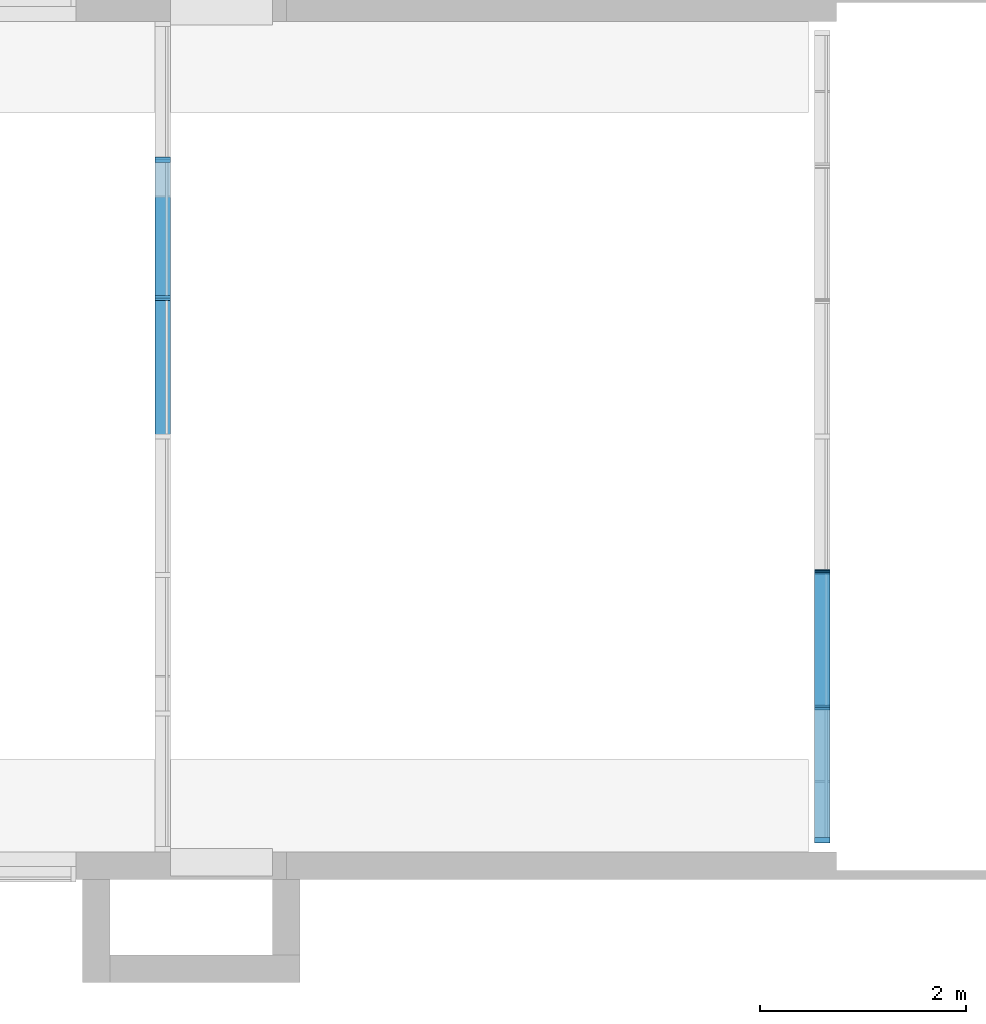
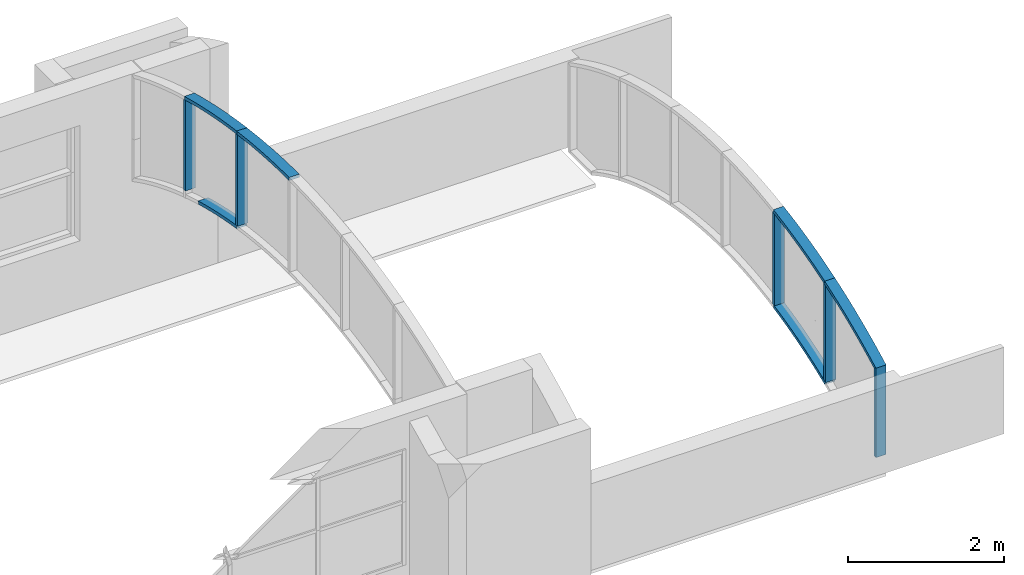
# One storey, part 4 of 14: 17 members, 3 elements without a shape of their own.
"""IFC2X3 building model written with IfcOpenShell, lengths in metres."""

from ifc_helpers import new_model, entity, si_unit, converted_unit, frame, frame_2d, origin, place, context, project, spatial, polyline, circle_curve, parameter, trimmed, segment, composite_curve, outline, extrude, source, transform, mapped, material, type_object, type_shapes, element, aggregate, save


model = new_model("IFC2X3")

# Units and contexts
model_context = context("Model", 3, precision=1e-09, world=origin())
plan_context = context("Plan", 3, precision=1e-09, world=origin())
ifc_project = project(units=[si_unit("LENGTHUNIT", "METRE"), si_unit("AREAUNIT", "SQUARE_METRE"), si_unit("VOLUMEUNIT", "CUBIC_METRE"), converted_unit("PLANEANGLEUNIT", "DEGREE", entity("IfcRatioMeasure", 0.01745329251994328), si_unit("PLANEANGLEUNIT", "RADIAN"), dimensions=[0, 0, 0, 0, 0, 0, 0]), si_unit("TIMEUNIT", "SECOND")], contexts=[model_context, plan_context])

# Site, building, storey
site_placement = place(None, origin())
site = spatial("IfcSite", under=ifc_project, at=site_placement, Name="Default", CompositionType="ELEMENT")
building_placement = place(site_placement, origin())
building = spatial("IfcBuilding", under=site, at=building_placement, CompositionType="ELEMENT")
storey_placement = place(building_placement, frame((0.0, 0.0, 9.25000000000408)))
storey = spatial("IfcBuildingStorey", under=building, at=storey_placement, Name="Roof - Main", CompositionType="ELEMENT", Elevation=9.25000000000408)

# Curtain wall, member
curtain_wall_1_placement = place(storey_placement, origin())
curtain_wall_1 = element("IfcCurtainWall", 1, at=curtain_wall_1_placement, inside=storey, Name="Curtain Wall:Storefront", ObjectType="Curtain Wall:Storefront")
ifc_material = material(Name="Metal - Aluminium")
member_type_1 = type_object("IfcMemberType", Name="50 x 150mm", PredefinedType="MULLION")
shared_shape_1 = source(origin(), model_context, "Body", "SweptSolid", [
    extrude(outline(polyline([(-0.7063048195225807, -0.025), (0.6913336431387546, -0.025), (0.6913336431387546, 0.025), (-0.6763624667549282, 0.025), (-0.7063048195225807, -0.025)])), frame((-0.025, -0.07499999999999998, -0.7063048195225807), z_axis=(0.0, 1.0, 0.0), x_axis=(0.0, 0.0, -1.0)), (0.0, 0.0, 1.0), 0.15),
])
type_shapes(member_type_1, [shared_shape_1])
member_1_placement = place(storey_placement, frame((-15.23000000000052, 27.76009600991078, 1.397638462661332), z_axis=(0.0, 0.0, 1.0), x_axis=(0.0, -1.0, 0.0)))
member_1 = element("IfcMember", 2, at=member_1_placement, type_object=member_type_1, material=ifc_material, Name="Rectangular Mullion:50 x 150mm:50 x 150mm", ObjectType="50 x 150mm", context=model_context, shape_type="MappedRepresentation", body=[
    mapped(shared_shape_1, transform((0.0, 0.0, 0.0), scale=1.0)),
])

curtain_wall_2_placement = place(storey_placement, origin())
curtain_wall_2 = element("IfcCurtainWall", 3, at=curtain_wall_2_placement, inside=storey, Name="Curtain Wall:Storefront", ObjectType="Curtain Wall:Storefront")
member_type_2 = type_object("IfcMemberType", Name="50 x 150mm", PredefinedType="MULLION")
shared_shape_2 = source(origin(), model_context, "Body", "SweptSolid", [
    extrude(outline(polyline([(-0.6913336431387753, -0.025), (0.7063048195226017, -0.025), (0.6763624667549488, 0.025), (-0.6913336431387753, 0.025), (-0.6913336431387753, -0.025)])), frame((-0.025, -0.07499999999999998, -0.6913336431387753), z_axis=(0.0, 1.0, 0.0), x_axis=(0.0, 0.0, -1.0)), (0.0, 0.0, 1.0), 0.15),
])
type_shapes(member_type_2, [shared_shape_2])
member_2_placement = place(storey_placement, frame((-15.23000000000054, 27.76009600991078, 0.0), z_axis=(0.0, 0.0, -1.0), x_axis=(0.0, -1.0, 0.0)))
member_2 = element("IfcMember", 4, at=member_2_placement, type_object=member_type_2, material=ifc_material, Name="Rectangular Mullion:50 x 150mm:50 x 150mm", ObjectType="50 x 150mm", context=model_context, shape_type="MappedRepresentation", body=[
    mapped(shared_shape_2, transform((0.0, 0.0, 0.0), scale=1.0)),
])

# Member
member_type_3 = type_object("IfcMemberType", Name="50 x 150mm", PredefinedType="MULLION")
shared_shape_3 = source(origin(), model_context, "Body", "SweptSolid", [
    extrude(outline(composite_curve([segment(trimmed(circle_curve(frame_2d((6.709519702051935, 4.853246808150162), x_axis=(-0.7576703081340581, -0.6526374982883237)), 8.335700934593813), [parameter(350.1744047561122)], [parameter(359.9999999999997)], True, "PARAMETER"), True, "CONTINUOUS"), segment(polyline([(0.3938066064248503, -0.5869441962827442), (0.431690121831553, -0.5543123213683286)]), True, "CONTINUOUS"), segment(trimmed(circle_curve(frame_2d((6.709519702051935, 4.853246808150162), x_axis=(-0.7576703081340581, -0.6526374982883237)), 8.285700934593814), [parameter(350.3816816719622)], [parameter(359.9999999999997)], True, "PARAMETER"), False, "CONTINUOUS"), segment(polyline([(-0.3835768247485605, 0.5706282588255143), (-0.4419199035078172, 0.5706282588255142)]), True, "CONTINUOUS")], self_intersect=False)), frame((-0.08468621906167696, -0.07499999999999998, -0.7017231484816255), z_axis=(0.0, -1.0, 0.0), x_axis=(-0.757670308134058, 0.0, 0.6526374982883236)), (0.0, 0.0, -1.0), 0.15),
])
type_shapes(member_type_3, [shared_shape_3])
member_3_placement = place(storey_placement, frame((-15.23000000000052, 29.07181400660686, 1.961383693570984), z_axis=(0.0, 0.9491835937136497, 0.3147229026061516), x_axis=(0.0, -0.3147229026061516, 0.9491835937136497)))
member_3 = element("IfcMember", 5, at=member_3_placement, type_object=member_type_3, material=ifc_material, Name="Rectangular Mullion:50 x 150mm:50 x 150mm", ObjectType="50 x 150mm", context=model_context, shape_type="MappedRepresentation", body=[
    mapped(shared_shape_3, transform((0.0, 0.0, 0.0), scale=1.0)),
])

member_type_4 = type_object("IfcMemberType", Name="50 x 150mm", PredefinedType="MULLION")
shared_shape_4 = source(origin(), model_context, "Body", "SweptSolid", [
    extrude(outline(composite_curve([segment(polyline([(-0.7626003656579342, -0.02433269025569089), (0.7451520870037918, -0.02433269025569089)]), True, "CONTINUOUS"), segment(trimmed(circle_curve(frame_2d((-7.105875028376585, 2.624103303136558), x_axis=(0.8815533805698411, -0.4720843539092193)), 8.285700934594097), [parameter(9.528566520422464)], [parameter(9.825595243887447)], True, "PARAMETER"), True, "CONTINUOUS"), segment(polyline([(0.7587763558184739, 0.01640343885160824), (0.7603105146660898, 0.02103492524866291)]), True, "CONTINUOUS"), segment(polyline([(0.7603105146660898, 0.02103492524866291), (0.7618419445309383, 0.02566730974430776)]), True, "CONTINUOUS"), segment(polyline([(0.7618419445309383, 0.02566730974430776), (-0.7418647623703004, 0.02566730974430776)]), True, "CONTINUOUS"), segment(trimmed(circle_curve(frame_2d((-7.073190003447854, 2.622044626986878), x_axis=(0.9812390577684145, -0.1927949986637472)), 6.843015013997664), [parameter(348.4167488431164)], [parameter(348.8181764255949)], True, "PARAMETER"), False, "CONTINUOUS"), segment(polyline([(-0.7602108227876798, -0.01862732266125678), (-0.7614049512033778, -0.02148028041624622)]), True, "CONTINUOUS"), segment(polyline([(-0.7614049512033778, -0.02148028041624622), (-0.7626003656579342, -0.0243326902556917)]), True, "CONTINUOUS")], self_intersect=False)), frame((0.0006673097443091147, -0.07499999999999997, -0.8063380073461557), z_axis=(0.0, 1.0, 0.0), x_axis=(0.0, 0.0, -1.0)), (0.0, 0.0, 1.0), 0.15),
])
type_shapes(member_type_4, [shared_shape_4])
member_4_placement = place(storey_placement, frame((-15.23000000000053, 29.07181400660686, 0.3488101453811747), z_axis=(0.0, 0.0, -1.0), x_axis=(0.0, -1.0, 0.0)))
member_4 = element("IfcMember", 6, at=member_4_placement, type_object=member_type_4, material=ifc_material, Name="Rectangular Mullion:50 x 150mm:50 x 150mm", ObjectType="50 x 150mm", context=model_context, shape_type="MappedRepresentation", body=[
    mapped(shared_shape_4, transform((0.0, 0.0, 0.0), scale=1.0)),
])

member_type_5 = type_object("IfcMemberType", Name="50 x 150mm", PredefinedType="MULLION")
shared_shape_5 = source(origin(), model_context, "Body", "SweptSolid", [
    extrude(outline(composite_curve([segment(polyline([(-0.7207281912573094, -0.02466761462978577), (0.7121542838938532, -0.02466761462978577)]), True, "CONTINUOUS"), segment(trimmed(circle_curve(frame_2d((-7.465010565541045, 1.312050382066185), x_axis=(0.9491835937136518, -0.3147229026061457)), 8.285700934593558), [parameter(9.060082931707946)], [parameter(9.29030803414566)], True, "PARAMETER"), True, "CONTINUOUS"), segment(polyline([(0.7174594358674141, 0.008200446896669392), (0.7188196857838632, 0.01676570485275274)]), True, "CONTINUOUS"), segment(polyline([(0.7188196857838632, 0.01676570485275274), (0.7201709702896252, 0.02533238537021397)]), True, "CONTINUOUS"), segment(polyline([(0.7201709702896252, 0.02533238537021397), (-0.7109785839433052, 0.02533238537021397)]), True, "CONTINUOUS"), segment(trimmed(circle_curve(frame_2d((-7.432325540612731, 1.309991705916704), x_axis=(0.9999999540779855, 0.0003030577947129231)), 6.843015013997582), [parameter(348.8666938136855)], [parameter(349.1621254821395)], True, "PARAMETER"), False, "CONTINUOUS"), segment(polyline([(-0.7176919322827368, -0.009307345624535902), (-0.7192056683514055, -0.01698834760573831)]), True, "CONTINUOUS"), segment(polyline([(-0.7192056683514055, -0.01698834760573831), (-0.7207281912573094, -0.02466761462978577)]), True, "CONTINUOUS")], self_intersect=False)), frame((0.0003323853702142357, -0.07499999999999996, -0.7667538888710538), z_axis=(0.0, 1.0, 0.0), x_axis=(0.0, 0.0, -1.0)), (0.0, 0.0, 1.0), 0.15),
])
type_shapes(member_type_5, [shared_shape_5])
member_5_placement = place(storey_placement, frame((-15.23000000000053, 30.38353200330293, 0.7475298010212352), z_axis=(0.0, 0.0, -1.0), x_axis=(0.0, -1.0, 0.0)))
member_5 = element("IfcMember", 7, at=member_5_placement, type_object=member_type_5, material=ifc_material, Name="Rectangular Mullion:50 x 150mm:50 x 150mm", ObjectType="50 x 150mm", context=model_context, shape_type="MappedRepresentation", body=[
    mapped(shared_shape_5, transform((0.0, 0.0, 0.0), scale=1.0)),
])

member_type_6 = type_object("IfcMemberType", Name="50 x 150mm", PredefinedType="MULLION")
shared_shape_6 = source(origin(), model_context, "Body", "SweptSolid", [
    extrude(outline(composite_curve([segment(polyline([(-0.7114755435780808, -0.02533874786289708), (0.720462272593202, -0.02533874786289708)]), True, "CONTINUOUS"), segment(trimmed(circle_curve(frame_2d((-7.46471926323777, -1.31205674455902), x_axis=(1.0, 0.0)), 8.285700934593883), [parameter(8.933836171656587)], [parameter(9.053778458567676)], True, "PARAMETER"), True, "CONTINUOUS"), segment(polyline([(0.7177507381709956, -0.008206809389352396), (0.7151146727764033, 0.008229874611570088)]), True, "CONTINUOUS"), segment(polyline([(0.7151146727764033, 0.008229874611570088), (0.7124455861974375, 0.02466125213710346)]), True, "CONTINUOUS"), segment(polyline([(0.7124455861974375, 0.02466125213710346), (-0.7212569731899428, 0.02466125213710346)]), True, "CONTINUOUS"), segment(trimmed(circle_curve(frame_2d((-7.432034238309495, -1.314115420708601), x_axis=(0.9222897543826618, 0.3864991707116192)), 6.843015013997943), [parameter(348.4144940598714)], [parameter(348.5453495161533)], True, "PARAMETER"), False, "CONTINUOUS"), segment(polyline([(-0.7182168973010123, 0.009331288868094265), (-0.7148238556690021, -0.007999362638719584)]), True, "CONTINUOUS"), segment(polyline([(-0.7148238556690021, -0.007999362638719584), (-0.7114755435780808, -0.02533874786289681)]), True, "CONTINUOUS")], self_intersect=False)), frame((-0.0003387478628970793, -0.07499999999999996, -0.7672728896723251), z_axis=(0.0, 1.0, 0.0), x_axis=(0.0, 0.0, -1.0)), (0.0, 0.0, 1.0), 0.15),
])
type_shapes(member_type_6, [shared_shape_6])
member_6_placement = place(storey_placement, frame((-15.23000000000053, 30.38353200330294, 0.7467194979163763), z_axis=(0.0, 0.0, -1.0), x_axis=(0.0, 1.0, 0.0)))
member_6 = element("IfcMember", 8, at=member_6_placement, type_object=member_type_6, material=ifc_material, Name="Rectangular Mullion:50 x 150mm:50 x 150mm", ObjectType="50 x 150mm", context=model_context, shape_type="MappedRepresentation", body=[
    mapped(shared_shape_6, transform((0.0, 0.0, 0.0), scale=1.0)),
])

member_type_7 = type_object("IfcMemberType", Name="50 x 150mm", PredefinedType="MULLION")
shared_shape_7 = source(origin(), model_context, "Body", "SweptSolid", [
    extrude(outline(composite_curve([segment(polyline([(-0.0846862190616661, -0.7017231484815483), (-0.0346862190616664, -0.7017231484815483)]), True, "CONTINUOUS"), segment(trimmed(circle_curve(frame_2d((8.251014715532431, -0.7017231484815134), x_axis=(-0.985331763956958, 0.1706496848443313)), 8.285700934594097), [parameter(0.2072769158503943)], [parameter(9.825595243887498)], True, "PARAMETER"), False, "CONTINUOUS"), segment(polyline([(0.0817886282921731, 0.6826847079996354), (0.03758380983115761, 0.7207615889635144)]), True, "CONTINUOUS"), segment(trimmed(circle_curve(frame_2d((8.251014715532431, -0.7017231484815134), x_axis=(-0.985331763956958, 0.1706496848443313)), 8.335700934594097), [parameter(3.562221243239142e-13)], [parameter(9.825595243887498)], True, "PARAMETER"), True, "CONTINUOUS")], self_intersect=False)), frame((-0.08596521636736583, -0.07499999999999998, -0.7166029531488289), z_axis=(0.0, 1.0, 0.0), x_axis=(-0.985331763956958, 0.0, 0.1706496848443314)), (0.0, 0.0, 1.0), 0.15),
])
type_shapes(member_type_7, [shared_shape_7])
member_7_placement = place(storey_placement, frame((-15.23000000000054, 27.76009600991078, 1.397638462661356), z_axis=(0.0, -0.8815533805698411, -0.4720843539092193), x_axis=(0.0, -0.4720843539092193, 0.8815533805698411)))
member_7 = element("IfcMember", 9, at=member_7_placement, type_object=member_type_7, material=ifc_material, Name="Rectangular Mullion:50 x 150mm:50 x 150mm", ObjectType="50 x 150mm", context=model_context, shape_type="MappedRepresentation", body=[
    mapped(shared_shape_7, transform((0.0, 0.0, 0.0), scale=1.0)),
])

member_type_8 = type_object("IfcMemberType", Name="50 x 150mm", PredefinedType="MULLION")
shared_shape_8 = source(origin(), model_context, "Body", "SweptSolid", [
    extrude(outline(composite_curve([segment(polyline([(-0.07950557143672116, -0.6708268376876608), (-0.02950557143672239, -0.6708268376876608)]), True, "CONTINUOUS"), segment(trimmed(circle_curve(frame_2d((8.256195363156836, -0.6708268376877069), x_axis=(-0.9868830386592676, 0.1614368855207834)), 8.285700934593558), [parameter(3.562221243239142e-13)], [parameter(9.29030803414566)], True, "PARAMETER"), False, "CONTINUOUS"), segment(polyline([(0.0791776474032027, 0.6667909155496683), (0.02983349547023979, 0.6748627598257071)]), True, "CONTINUOUS"), segment(trimmed(circle_curve(frame_2d((8.256195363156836, -0.6708268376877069), x_axis=(-0.9868830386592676, 0.1614368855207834)), 8.335700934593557), [parameter(3.562221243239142e-13)], [parameter(9.29030803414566)], True, "PARAMETER"), True, "CONTINUOUS")], self_intersect=False)), frame((-0.07950557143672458, -0.07499999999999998, -0.6708268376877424), z_axis=(0.0, 1.0, 0.0), x_axis=(-0.9868830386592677, 0.0, 0.161436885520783)), (0.0, 0.0, 1.0), 0.1499999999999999),
])
type_shapes(member_type_8, [shared_shape_8])
member_8_placement = place(storey_placement, frame((-15.23000000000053, 29.07181400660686, 1.961383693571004), z_axis=(0.0, -0.9491835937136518, -0.3147229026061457), x_axis=(0.0, -0.3147229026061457, 0.9491835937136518)))
member_8 = element("IfcMember", 10, at=member_8_placement, type_object=member_type_8, material=ifc_material, Name="Rectangular Mullion:50 x 150mm:50 x 150mm", ObjectType="50 x 150mm", context=model_context, shape_type="MappedRepresentation", body=[
    mapped(shared_shape_8, transform((0.0, 0.0, 0.0), scale=1.0)),
])

member_type_9 = type_object("IfcMemberType", Name="50 x 150mm", PredefinedType="MULLION")
shared_shape_9 = source(origin(), model_context, "Body", "SweptSolid", [
    extrude(outline(composite_curve([segment(polyline([(-0.0795055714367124, -0.6708268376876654), (-0.0295055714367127, -0.6708268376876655)]), True, "CONTINUOUS"), segment(trimmed(circle_curve(frame_2d((8.256195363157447, -0.6708268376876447), x_axis=(-0.9868830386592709, 0.1614368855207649)), 8.28570093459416), [parameter(3.562221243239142e-13)], [parameter(9.290308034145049)], True, "PARAMETER"), False, "CONTINUOUS"), segment(polyline([(0.07917764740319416, 0.6667909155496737), (0.02983349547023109, 0.6748627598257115)]), True, "CONTINUOUS"), segment(trimmed(circle_curve(frame_2d((8.256195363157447, -0.6708268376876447), x_axis=(-0.9868830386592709, 0.1614368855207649)), 8.33570093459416), [parameter(3.562221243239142e-13)], [parameter(9.290308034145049)], True, "PARAMETER"), True, "CONTINUOUS")], self_intersect=False)), frame((-0.0795055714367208, -0.07499999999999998, -0.6708268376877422), z_axis=(0.0, 1.0, 0.0), x_axis=(-0.9868830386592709, 0.0, 0.1614368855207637)), (0.0, 0.0, 1.0), 0.15),
])
type_shapes(member_type_9, [shared_shape_9])
member_9_placement = place(storey_placement, frame((-15.23000000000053, 30.38353200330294, 2.281120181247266), z_axis=(0.0, 0.9875410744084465, 0.1573614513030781), x_axis=(0.0, -0.1573614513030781, 0.9875410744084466)))
member_9 = element("IfcMember", 11, at=member_9_placement, type_object=member_type_9, material=ifc_material, Name="Rectangular Mullion:50 x 150mm:50 x 150mm", ObjectType="50 x 150mm", context=model_context, shape_type="MappedRepresentation", body=[
    mapped(shared_shape_9, transform((0.0, 0.0, 0.0), scale=1.0)),
])

member_type_10 = type_object("IfcMemberType", Name="50 x 150mm", PredefinedType="MULLION")
shared_shape_10 = source(origin(), model_context, "Body", "SweptSolid", [
    extrude(outline(composite_curve([segment(polyline([(0.04442789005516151, -0.6844999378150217), (0.09442789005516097, -0.6844999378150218)]), True, "CONTINUOUS"), segment(trimmed(circle_curve(frame_2d((-6.748587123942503, -0.684499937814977), x_axis=(0.9796339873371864, 0.2007915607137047)), 6.843015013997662), [parameter(348.4167488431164)], [parameter(359.9999999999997)], True, "PARAMETER"), True, "CONTINUOUS"), segment(polyline([(-0.0449370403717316, 0.6895197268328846), (-0.09391873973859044, 0.6794801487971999)]), True, "CONTINUOUS"), segment(trimmed(circle_curve(frame_2d((-6.748587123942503, -0.684499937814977), x_axis=(0.9796339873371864, 0.2007915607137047)), 6.793015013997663), [parameter(348.4167488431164)], [parameter(359.9999999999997)], True, "PARAMETER"), False, "CONTINUOUS")], self_intersect=False)), frame((0.04442789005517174, -0.07499999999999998, -0.6844999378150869), z_axis=(0.0, 1.0, 0.0), x_axis=(-0.9796339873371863, 0.0, -0.2007915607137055)), (0.0, 0.0, 1.0), 0.1499999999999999),
])
type_shapes(member_type_10, [shared_shape_10])
member_10_placement = place(storey_placement, frame((-15.23000000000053, 30.38353200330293, 0.7475298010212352), z_axis=(0.0, 0.9812390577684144, 0.1927949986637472), x_axis=(0.0, 0.1927949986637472, -0.9812390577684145)))
member_10 = element("IfcMember", 12, at=member_10_placement, type_object=member_type_10, material=ifc_material, Name="Rectangular Mullion:50 x 150mm:50 x 150mm", ObjectType="50 x 150mm", context=model_context, shape_type="MappedRepresentation", body=[
    mapped(shared_shape_10, transform((0.0, 0.0, 0.0), scale=1.0)),
])

aggregate(curtain_wall_2, [member_2, member_10, member_8, member_4, member_5, member_7])

# Curtain wall, members
curtain_wall_3_placement = place(storey_placement, origin())
curtain_wall_3 = element("IfcCurtainWall", 13, at=curtain_wall_3_placement, inside=storey, Name="Curtain Wall:Storefront", ObjectType="Curtain Wall:Storefront")
member_type_11 = type_object("IfcMemberType", Name="50 x 150mm", PredefinedType="MULLION")
shared_shape_11 = source(origin(), model_context, "Body", "SweptSolid", [
    extrude(outline(composite_curve([segment(polyline([(-0.07082790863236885, -0.6806923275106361), (-0.0208279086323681, -0.6806923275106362)]), True, "CONTINUOUS"), segment(trimmed(circle_curve(frame_2d((10.11047762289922, -0.6806923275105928), x_axis=(-0.9909754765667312, 0.134043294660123)), 10.13130553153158), [parameter(3.562221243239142e-13)], [parameter(7.703301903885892)], True, "PARAMETER"), False, "CONTINUOUS"), segment(polyline([(0.07060229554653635, 0.6773412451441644), (0.02105352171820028, 0.6840434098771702)]), True, "CONTINUOUS"), segment(trimmed(circle_curve(frame_2d((10.11047762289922, -0.6806923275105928), x_axis=(-0.9909754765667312, 0.134043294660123)), 10.18130553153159), [parameter(3.562221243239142e-13)], [parameter(7.703301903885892)], True, "PARAMETER"), True, "CONTINUOUS")], self_intersect=False)), frame((-0.07082790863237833, -0.075, -0.6806923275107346), z_axis=(0.0, 1.0, 0.0), x_axis=(-0.9909754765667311, 0.0, 0.1340432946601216)), (0.0, 0.0, 1.0), 0.15),
])
type_shapes(member_type_11, [shared_shape_11])
member_11_placement = place(storey_placement, frame((-21.61957995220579, 33.03599671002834, 4.136261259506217), z_axis=(0.0, -0.9912891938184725, 0.1317032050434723), x_axis=(0.0, 0.1317032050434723, 0.9912891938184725)))
member_11 = element("IfcMember", 14, at=member_11_placement, type_object=member_type_11, material=ifc_material, Name="Rectangular Mullion:50 x 150mm:50 x 150mm", ObjectType="50 x 150mm", context=model_context, shape_type="MappedRepresentation", body=[
    mapped(shared_shape_11, transform((0.0, 0.0, 0.0), scale=1.0)),
])
member_type_12 = type_object("IfcMemberType", Name="50 x 150mm", PredefinedType="MULLION")
shared_shape_12 = source(origin(), model_context, "Body", "SweptSolid", [
    extrude(outline(composite_curve([segment(polyline([(0.003737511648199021, -0.4989585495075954), (0.05373751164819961, -0.4989585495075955)]), True, "CONTINUOUS"), segment(trimmed(circle_curve(frame_2d((-8.663228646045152, -0.498958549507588), x_axis=(0.9933875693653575, 0.114809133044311)), 8.716966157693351), [parameter(353.407383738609)], [parameter(359.9999999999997)], True, "PARAMETER"), True, "CONTINUOUS"), segment(polyline([(-0.00390282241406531, 0.5018287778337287), (-0.05357220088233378, 0.4960883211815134)]), True, "CONTINUOUS"), segment(trimmed(circle_curve(frame_2d((-8.663228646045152, -0.498958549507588), x_axis=(0.9933875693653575, 0.114809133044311)), 8.66696615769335), [parameter(353.407383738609)], [parameter(359.9999999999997)], True, "PARAMETER"), False, "CONTINUOUS")], self_intersect=False)), frame((0.003737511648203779, -0.07500000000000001, -0.4989585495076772), z_axis=(0.0, 1.0, 0.0), x_axis=(-0.9933875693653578, 0.0, -0.1148091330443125)), (0.0, 0.0, 1.0), 0.15),
])
type_shapes(member_type_12, [shared_shape_12])
member_12_placement = place(storey_placement, frame((-21.61957995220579, 34.01019566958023, 2.400000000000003), z_axis=(0.0, 0.9636636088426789, -0.2671187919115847), x_axis=(0.0, -0.2671187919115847, -0.9636636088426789)))
member_12 = element("IfcMember", 15, at=member_12_placement, type_object=member_type_12, material=ifc_material, Name="Rectangular Mullion:50 x 150mm:50 x 150mm", ObjectType="50 x 150mm", context=model_context, shape_type="MappedRepresentation", body=[
    mapped(shared_shape_12, transform((0.0, 0.0, 0.0), scale=1.0)),
])
member_type_13 = type_object("IfcMemberType", Name="50 x 150mm", PredefinedType="MULLION")
shared_shape_13 = source(origin(), model_context, "Body", "SweptSolid", [
    extrude(outline(composite_curve([segment(polyline([(-0.9427185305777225, -0.02379181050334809), (0.4777095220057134, -0.02379181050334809)]), True, "CONTINUOUS"), segment(trimmed(circle_curve(frame_2d((-9.299075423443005, -2.680449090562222), x_axis=(0.9912891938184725, 0.1317032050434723)), 10.13130553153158), [parameter(7.633959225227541)], [parameter(7.703301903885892)], True, "PARAMETER"), True, "CONTINUOUS"), segment(polyline([(0.4744871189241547, -0.01196131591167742), (0.4692549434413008, 0.007128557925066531)]), True, "CONTINUOUS"), segment(polyline([(0.4692549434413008, 0.007128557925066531), (0.4639854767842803, 0.02620818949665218)]), True, "CONTINUOUS"), segment(polyline([(0.4639854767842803, 0.02620818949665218), (-0.9427185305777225, 0.02620818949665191)]), True, "CONTINUOUS"), segment(polyline([(-0.9427185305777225, 0.02620818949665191), (-0.9427185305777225, -0.02379181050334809)]), True, "CONTINUOUS")], self_intersect=False)), frame((0.00120818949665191, -0.07499999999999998, -0.9427185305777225), z_axis=(0.0, 1.0, 0.0), x_axis=(0.0, 0.0, -1.0)), (0.0, 0.0, 1.0), 0.15),
])
type_shapes(member_type_13, [shared_shape_13])
member_13_placement = place(storey_placement, frame((-21.61957995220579, 34.37674342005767, 2.4), z_axis=(0.0, 0.0, -1.0), x_axis=(0.0, -1.0, 0.0)))
member_13 = element("IfcMember", 16, at=member_13_placement, type_object=member_type_13, material=ifc_material, Name="Rectangular Mullion:50 x 150mm:50 x 150mm", ObjectType="50 x 150mm", context=model_context, shape_type="MappedRepresentation", body=[
    mapped(shared_shape_13, transform((0.0, 0.0, 0.0), scale=1.0)),
])

# Member
member_type_14 = type_object("IfcMemberType", Name="50 x 150mm", PredefinedType="MULLION")
shared_shape_14 = source(origin(), model_context, "Body", "SweptSolid", [
    extrude(outline(composite_curve([segment(polyline([(-0.742957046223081, -0.02567602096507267), (0.7624396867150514, -0.02567602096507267)]), True, "CONTINUOUS"), segment(trimmed(circle_curve(frame_2d((-7.105277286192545, -2.624112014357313), x_axis=(0.9875410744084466, 0.1573614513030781)), 8.285700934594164), [parameter(9.22283189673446)], [parameter(9.290308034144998)], True, "PARAMETER"), True, "CONTINUOUS"), segment(polyline([(0.7593740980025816, -0.01641215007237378), (0.7525883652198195, 0.003964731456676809)]), True, "CONTINUOUS"), segment(polyline([(0.7525883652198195, 0.003964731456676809), (0.7457498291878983, 0.02432397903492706)]), True, "CONTINUOUS"), segment(polyline([(0.7457498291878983, 0.02432397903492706), (-0.7637308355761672, 0.02432397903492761)]), True, "CONTINUOUS"), segment(trimmed(circle_curve(frame_2d((-7.072592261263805, -2.626170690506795), x_axis=(0.8711951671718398, 0.4909368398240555)), 6.843015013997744), [parameter(353.3346662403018)], [parameter(353.3861960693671)], True, "PARAMETER"), False, "CONTINUOUS"), segment(polyline([(-0.7613496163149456, 0.01864891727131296), (-0.7521144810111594, -0.003497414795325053)]), True, "CONTINUOUS"), segment(polyline([(-0.7521144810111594, -0.003497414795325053), (-0.742957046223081, -0.0256760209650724)]), True, "CONTINUOUS")], self_intersect=False)), frame((-0.0006760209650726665, -0.07499999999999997, -0.8074641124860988), z_axis=(0.0, 1.0, 0.0), x_axis=(0.0, 0.0, -1.0)), (0.0, 0.0, 1.0), 0.15),
])
type_shapes(member_type_14, [shared_shape_14])
member_14_placement = place(storey_placement, frame((-15.23000000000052, 29.07181400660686, 0.3470862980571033), z_axis=(0.0, 0.0, -1.0), x_axis=(0.0, 1.0, 0.0)))
member_14 = element("IfcMember", 17, at=member_14_placement, type_object=member_type_14, material=ifc_material, Name="Rectangular Mullion:50 x 150mm:50 x 150mm", ObjectType="50 x 150mm", context=model_context, shape_type="MappedRepresentation", body=[
    mapped(shared_shape_14, transform((0.0, 0.0, 0.0), scale=1.0)),
])

member_type_15 = type_object("IfcMemberType", Name="50 x 150mm", PredefinedType="MULLION")
shared_shape_15 = source(origin(), model_context, "Body", "SweptSolid", [
    extrude(outline(composite_curve([segment(polyline([(0.04445483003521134, -0.6846313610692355), (0.09445483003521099, -0.6846313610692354)]), True, "CONTINUOUS"), segment(trimmed(circle_curve(frame_2d((-6.748560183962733, -0.684631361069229), x_axis=(0.9796260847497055, 0.2008301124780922)), 6.843015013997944), [parameter(348.4144940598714)], [parameter(359.9999999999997)], True, "PARAMETER"), True, "CONTINUOUS"), segment(polyline([(-0.04496417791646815, 0.6896521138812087), (-0.09394548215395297, 0.6796106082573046)]), True, "CONTINUOUS"), segment(trimmed(circle_curve(frame_2d((-6.748560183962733, -0.684631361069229), x_axis=(0.9796260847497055, 0.2008301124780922)), 6.793015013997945), [parameter(348.4144940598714)], [parameter(359.9999999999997)], True, "PARAMETER"), False, "CONTINUOUS")], self_intersect=False)), frame((0.04445483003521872, -0.07499999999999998, -0.6846313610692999), z_axis=(0.0, 1.0, 0.0), x_axis=(-0.9796260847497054, 0.0, -0.200830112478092)), (0.0, 0.0, 1.0), 0.15),
])
type_shapes(member_type_15, [shared_shape_15])
member_15_placement = place(storey_placement, frame((-15.23000000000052, 29.07181400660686, 0.3470862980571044), z_axis=(0.0, -0.9222897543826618, -0.3864991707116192), x_axis=(0.0, 0.3864991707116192, -0.9222897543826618)))
member_15 = element("IfcMember", 18, at=member_15_placement, type_object=member_type_15, material=ifc_material, Name="Rectangular Mullion:50 x 150mm:50 x 150mm", ObjectType="50 x 150mm", context=model_context, shape_type="MappedRepresentation", body=[
    mapped(shared_shape_15, transform((0.0, 0.0, 0.0), scale=1.0)),
])

aggregate(curtain_wall_1, [member_15, member_9, member_1, member_3, member_14, member_6])

member_type_16 = type_object("IfcMemberType", Name="50 x 150mm", PredefinedType="MULLION")
shared_shape_16 = source(origin(), model_context, "Body", "SweptSolid", [
    extrude(outline(composite_curve([segment(polyline([(-0.069224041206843, -0.6687279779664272), (-0.01922404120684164, -0.6687279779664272)]), True, "CONTINUOUS"), segment(trimmed(circle_curve(frame_2d((10.11208149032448, -0.6687279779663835), x_axis=(-0.9912913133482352, 0.1316872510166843)), 10.13130553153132), [parameter(3.562221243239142e-13)], [parameter(7.567102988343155)], True, "PARAMETER"), False, "CONTINUOUS"), segment(polyline([(0.06900632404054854, 0.6654357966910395), (0.01944175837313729, 0.6720201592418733)]), True, "CONTINUOUS"), segment(trimmed(circle_curve(frame_2d((10.11208149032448, -0.6687279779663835), x_axis=(-0.9912913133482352, 0.1316872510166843)), 10.18130553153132), [parameter(3.562221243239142e-13)], [parameter(7.567102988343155)], True, "PARAMETER"), True, "CONTINUOUS")], self_intersect=False)), frame((-0.06922404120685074, -0.07499999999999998, -0.6687279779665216), z_axis=(0.0, 1.0, 0.0), x_axis=(-0.9912913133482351, 0.0, 0.1316872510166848)), (0.0, 0.0, 1.0), 0.1499999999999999),
])
type_shapes(member_type_16, [shared_shape_16])
member_16_placement = place(storey_placement, frame((-21.61957995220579, 31.69524999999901, 4.224948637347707), z_axis=(0.0, -1.0, 1.609420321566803e-05), x_axis=(0.0, 1.609420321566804e-05, 1.0)))
member_16 = element("IfcMember", 19, at=member_16_placement, type_object=member_type_16, material=ifc_material, Name="Rectangular Mullion:50 x 150mm:50 x 150mm", ObjectType="50 x 150mm", context=model_context, shape_type="MappedRepresentation", body=[
    mapped(shared_shape_16, transform((0.0, 0.0, 0.0), scale=1.0)),
])

member_type_17 = type_object("IfcMemberType", Name="50 x 150mm", PredefinedType="MULLION")
shared_shape_17 = source(origin(), model_context, "Body", "SweptSolid", [
    extrude(outline(composite_curve([segment(polyline([(-0.7084224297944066, -0.02521624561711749), (0.715674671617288, -0.02521624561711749)]), True, "CONTINUOUS"), segment(trimmed(circle_curve(frame_2d((-9.329808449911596, -1.341126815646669), x_axis=(1.0, 1.609420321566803e-05)), 10.13130553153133), [parameter(7.462058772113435)], [parameter(7.567102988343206)], True, "PARAMETER"), True, "CONTINUOUS"), segment(polyline([(0.7132452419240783, -0.006801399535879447), (0.7111341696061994, 0.008992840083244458)]), True, "CONTINUOUS"), segment(polyline([(0.7111341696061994, 0.008992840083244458), (0.7089982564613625, 0.02478375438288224)]), True, "CONTINUOUS"), segment(polyline([(0.7089982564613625, 0.02478375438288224), (-0.7162064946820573, 0.02478375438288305)]), True, "CONTINUOUS"), segment(trimmed(circle_curve(frame_2d((-9.325491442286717, -1.341126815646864), x_axis=(0.9636636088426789, 0.2671187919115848)), 8.71696615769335), [parameter(353.407383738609)], [parameter(353.5222610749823)], True, "PARAMETER"), False, "CONTINUOUS"), segment(polyline([(-0.7134851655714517, 0.007519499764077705), (-0.710938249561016, -0.008845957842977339)]), True, "CONTINUOUS"), segment(polyline([(-0.710938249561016, -0.008845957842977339), (-0.7084224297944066, -0.02521624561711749)]), True, "CONTINUOUS")], self_intersect=False)), frame((-0.0002162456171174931, -0.07499999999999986, -0.7628831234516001), z_axis=(0.0, 1.0, 0.0), x_axis=(0.0, 0.0, -1.0)), (0.0, 0.0, 1.0), 0.15),
])
type_shapes(member_type_17, [shared_shape_17])
member_17_placement = place(storey_placement, frame((-21.61957995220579, 33.03599671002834, 2.61056843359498), z_axis=(0.0, 0.0, -1.0), x_axis=(0.0, -1.0, 0.0)))
member_17 = element("IfcMember", 20, at=member_17_placement, type_object=member_type_17, material=ifc_material, Name="Rectangular Mullion:50 x 150mm:50 x 150mm", ObjectType="50 x 150mm", context=model_context, shape_type="MappedRepresentation", body=[
    mapped(shared_shape_17, transform((0.0, 0.0, 0.0), scale=1.0)),
])

aggregate(curtain_wall_3, [member_12, member_11, member_16, member_17, member_13])

save(model, "model.ifc")
